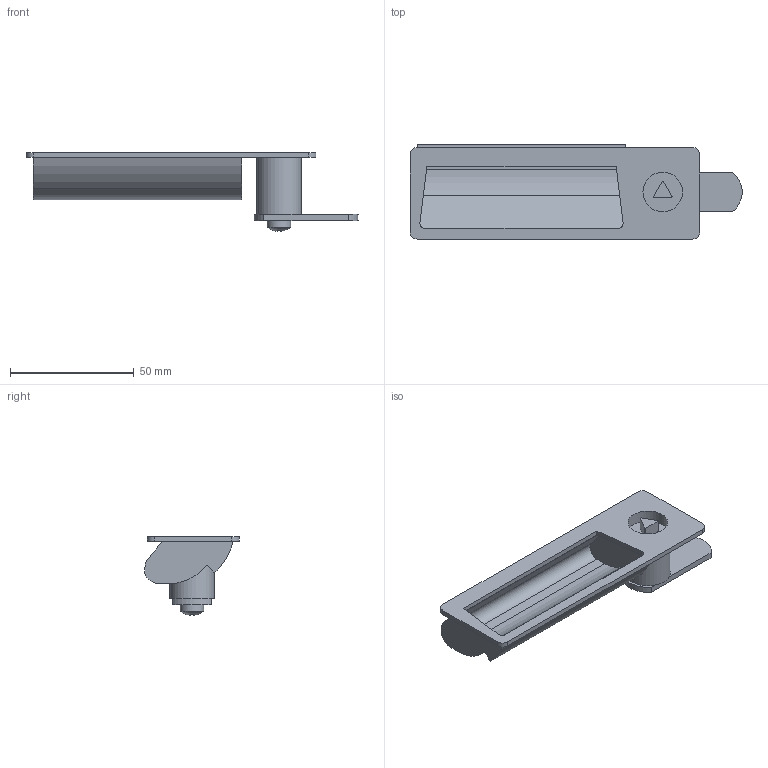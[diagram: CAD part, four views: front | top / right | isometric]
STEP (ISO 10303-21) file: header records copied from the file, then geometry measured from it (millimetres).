
FILE_DESCRIPTION( ( 'STEP AP203' ), '1' );
FILE_NAME( 'C:/Temp/Ganter_Step_05_03_2020/data/3_3/gn731_5/gn731_5_2/Latche with gripping tray GN 731.5-DK-0-32-2-SG (0-23).stp', '2020-03-12T11:49:28', ( 'License CC BY-ND 4.0' ), ( 'CADENAS' ), ' ', 'PARTsolutions', ' ' );
FILE_SCHEMA( ( 'CONFIG_CONTROL_DESIGN' ) );
Length unit declared in the file: millimetre
Products named in the file (3): Latche with gripping tray GN 731.5-DK-0-32-2-SG (0-23); _Latche with gripping tray GN 731.5-DK-0-32-2-SG (0)_1; _Latche with gripping tray GN 731.5-DK-0-32-2-SG (0-23)_2
Assembly tree (2 placements, depth 2):
  Latche with gripping tray GN 731.5-DK-0-32-2-SG (0-23)
    _Latche with gripping tray GN 731.5-DK-0-32-2-SG (0)_1
    _Latche with gripping tray GN 731.5-DK-0-32-2-SG (0-23)_2
Bounding box: 133.96 x 38 x 31.88 mm (x, y, z)
Volume: 23735.6 mm3; surface area: 19963.5 mm2
Topology: 2 solids, 2 shells, 87 faces, 221 edges, 144 vertices
Faces by surface type: plane 63, cylinder 23, sphere 1
Full cylindrical faces by diameter (mm): 9.5 x1, 16 x1, 18 x1
Entity records: 2687 total; most frequent: DIRECTION 461, CARTESIAN_POINT 445, ORIENTED_EDGE 428, EDGE_CURVE 214, AXIS2_PLACEMENT_3D 157, LINE 147, VECTOR 147, VERTEX_POINT 141
